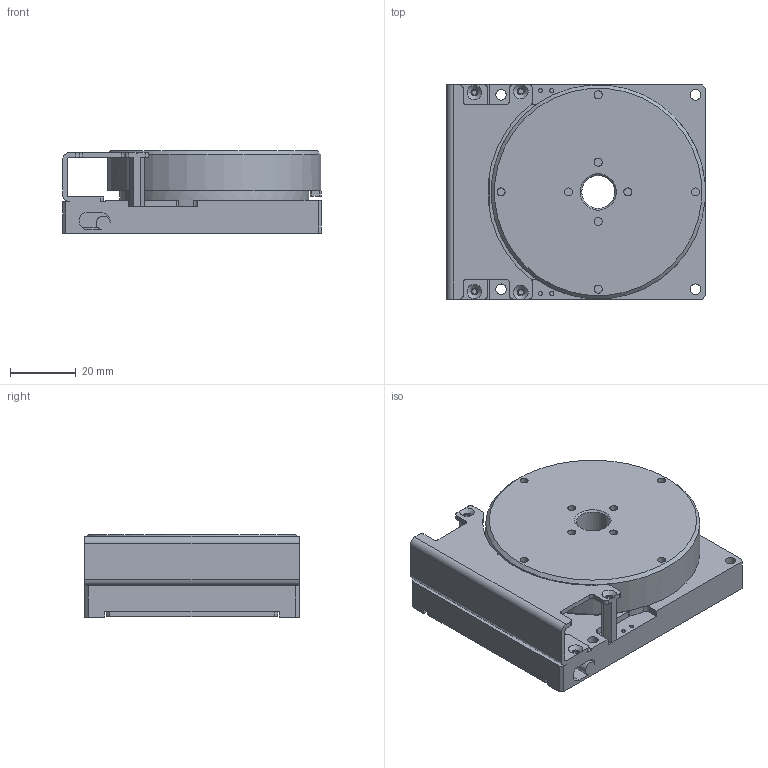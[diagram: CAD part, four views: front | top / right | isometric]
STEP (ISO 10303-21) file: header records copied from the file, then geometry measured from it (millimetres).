
FILE_DESCRIPTION( ( 'Unknown' ), '1' );
FILE_NAME( 'C:/Users/michael/Desktop/180和240/RMC65-1.stp', 'Unknown', ( 'Unknown' ), ( 'Unknown' ), 'PSStep 17.0.49', 'Unknown', ' ' );
FILE_SCHEMA( ( 'AUTOMOTIVE_DESIGN { 1 0 10303 214 1 1 1 1 }' ) );
Length unit declared in the file: millimetre
Products named in the file (1): M2X15X3
Bounding box: 78.5 x 65 x 25 mm (x, y, z)
Volume: 97049 mm3; surface area: 24651.1 mm2
Topology: 1 solids, 10 shells, 217 faces, 540 edges, 366 vertices
Faces by surface type: plane 120, cylinder 83, cone 14
Full cylindrical faces by diameter (mm): 1.221 x4, 1.567 x6, 2.013 x6, 2.2 x7, 2.459 x8, 2.7 x5, 3.2 x4, 4.3 x1, 10 x1, 10.045 x1, 57.4 x1, 65 x1
Entity records: 7649 total; most frequent: DIRECTION 1061, CARTESIAN_POINT 999, ORIENTED_EDGE 882, EDGE_CURVE 441, AXIS2_PLACEMENT_3D 404, VERTEX_POINT 326, EDGE_LOOP 317, FACE_OUTER_BOUND 262
